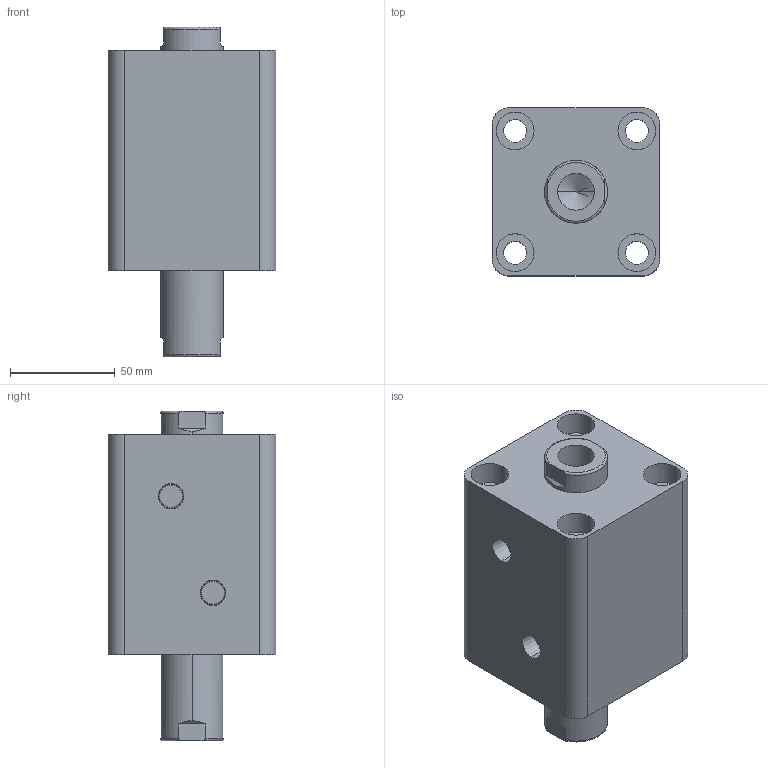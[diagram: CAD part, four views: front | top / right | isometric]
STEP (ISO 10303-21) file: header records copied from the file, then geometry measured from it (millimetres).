
FILE_DESCRIPTION (( 'STEP AP203' ), '1' );
FILE_NAME ('HTB-SW50-30N.STEP', '2019-10-07T09:19:01', ( '微软用户' ), ( '微软中国' ), 'SwSTEP 2.0', 'SolidWorks 2012', '' );
FILE_SCHEMA (( 'CONFIG_CONTROL_DESIGN' ));
Length unit declared in the file: millimetre
Products named in the file (3): HTB-SW50-30N; HTB-SW50-30N活塞杆; HTB-SW50-30掛极
Assembly tree (2 placements, depth 2):
  HTB-SW50-30N
    HTB-SW50-30掛极
    HTB-SW50-30N活塞杆
Bounding box: 80 x 80 x 157 mm (x, y, z)
Volume: 595965.5 mm3; surface area: 98177.1 mm2
Topology: 2 solids, 2 shells, 100 faces, 228 edges, 146 vertices
Faces by surface type: cylinder 48, plane 32, torus 12, cone 8
Entity records: 3237 total; most frequent: CARTESIAN_POINT 595, DIRECTION 542, ORIENTED_EDGE 448, AXIS2_PLACEMENT_3D 229, EDGE_CURVE 224, VERTEX_POINT 146, EDGE_LOOP 128, CIRCLE 124
